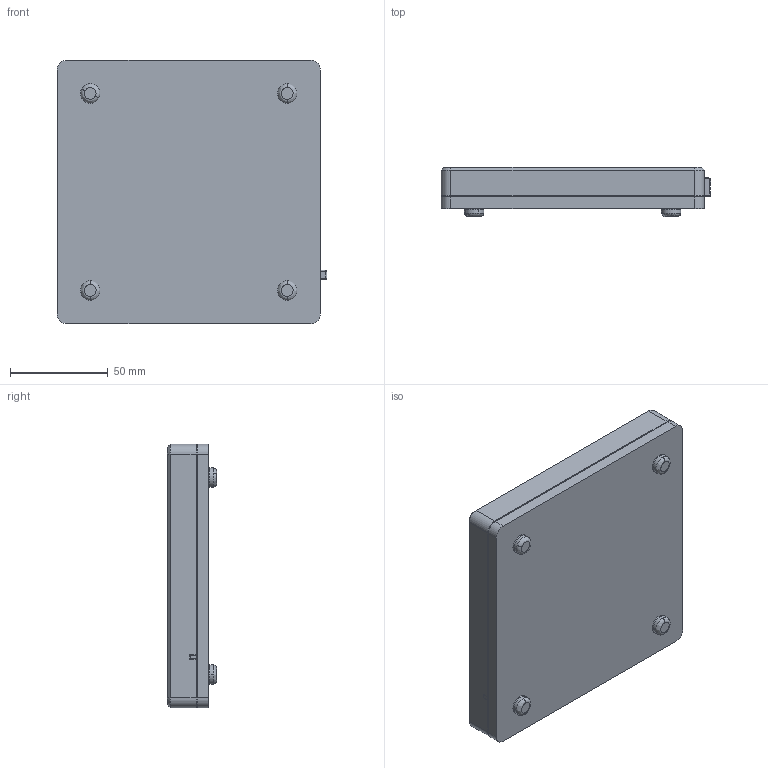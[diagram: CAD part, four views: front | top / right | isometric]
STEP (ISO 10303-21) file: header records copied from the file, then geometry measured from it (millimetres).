
FILE_DESCRIPTION (( 'STEP AP214' ), '1' );
FILE_NAME ('Driver_3axis.STEP', '2021-05-27T11:31:54', ( '' ), ( '' ), 'SwSTEP 2.0', 'SolidWorks 2016', '' );
FILE_SCHEMA (( 'AUTOMOTIVE_DESIGN' ));
Length unit declared in the file: millimetre
Products named in the file (11): JACK-C-PC-10A-RA(R)--3DModel-STEP-56544; 5151105F; UX60SC-MB-5S8; Top controller; Bottom controller; Driver_3axis; PBH2UxxNAG1Cxxx cap; PHB2UEESN1ANS; IX61G-B-10P; TR Fastenings Ltd-M3X14mm_M3X14mm; BPM-2
Assembly tree (18 placements, depth 2):
  Driver_3axis
    Bottom controller
    Top controller
    5151105F
    TR Fastenings Ltd-M3X14mm_M3X14mm  x4
    IX61G-B-10P  x3
    UX60SC-MB-5S8
    PHB2UEESN1ANS
    PBH2UxxNAG1Cxxx cap
    JACK-C-PC-10A-RA(R)--3DModel-STEP-56544
    BPM-2  x4
Bounding box: 138.38 x 25.3 x 135 mm (x, y, z)
Volume: 148067.4 mm3; surface area: 103344.7 mm2
Topology: 26 solids, 26 shells, 3258 faces, 9105 edges, 5880 vertices
Faces by surface type: plane 1995, cylinder 1043, cone 112, bspline 97, torus 11
Entity records: 82921 total; most frequent: CARTESIAN_POINT 20384, ORIENTED_EDGE 12386, DIRECTION 11067, EDGE_CURVE 6193, VECTOR 4527, LINE 4527, VERTEX_POINT 4035, AXIS2_PLACEMENT_3D 3270
